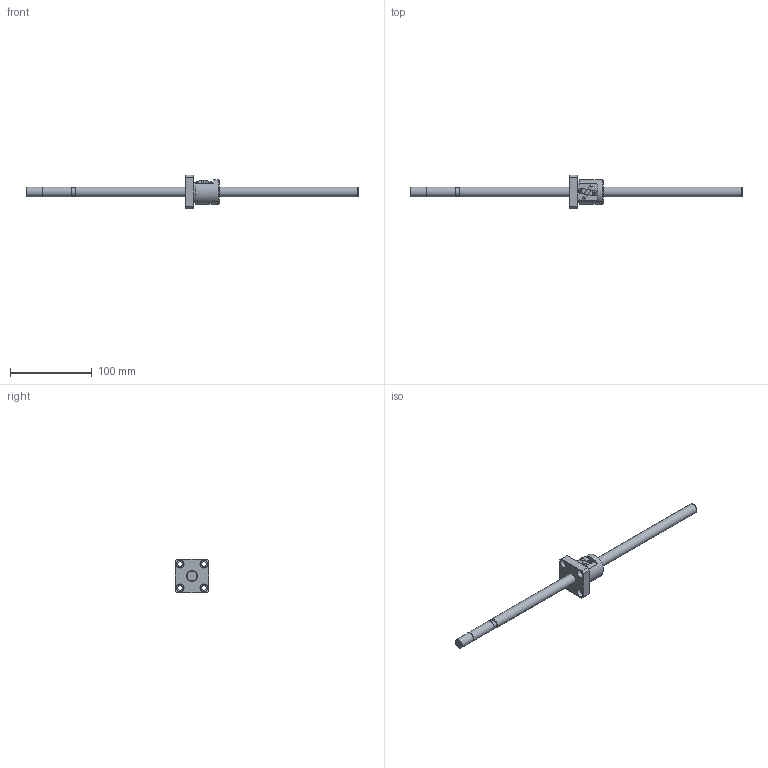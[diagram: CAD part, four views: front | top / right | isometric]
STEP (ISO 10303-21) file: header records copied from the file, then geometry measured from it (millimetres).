
FILE_DESCRIPTION((''),'2;1');
FILE_NAME('D:\製品 (図面)\カタログ用3D\ネジ関連\STEP形式\KBS(C)\KBS(C)1204-405.stp','2010-06-02T09:16:12',('Tsuchiya'),(''),'Autodesk Inventor 10','Autodesk Inventor 10','');
FILE_SCHEMA(('AUTOMOTIVE_DESIGN { 1 0 10303 214 1 1 1 1 }'));
Length unit declared in the file: millimetre
Products named in the file (3): KBS(C)1204-405; KBS(C)1204-4051; KBS(C)1204-4052
Assembly tree (2 placements, depth 2):
  KBS(C)1204-405
    KBS(C)1204-4051
    KBS(C)1204-4052
Bounding box: 405 x 41 x 41 mm (x, y, z)
Volume: 75670.3 mm3; surface area: 25916.4 mm2
Topology: 2 solids, 2 shells, 93 faces, 232 edges, 153 vertices
Faces by surface type: plane 42, cylinder 30, bspline 16, cone 3, torus 2
Full cylindrical faces by diameter (mm): 3.2 x1, 5.5 x4, 5.6 x1, 9.5 x4, 10.1 x1, 11.7 x1, 12 x3, 14 x2, 30 x1
Entity records: 2857 total; most frequent: CARTESIAN_POINT 712, DIRECTION 408, ORIENTED_EDGE 396, EDGE_CURVE 198, AXIS2_PLACEMENT_3D 152, VERTEX_POINT 146, EDGE_LOOP 146, VECTOR 104
